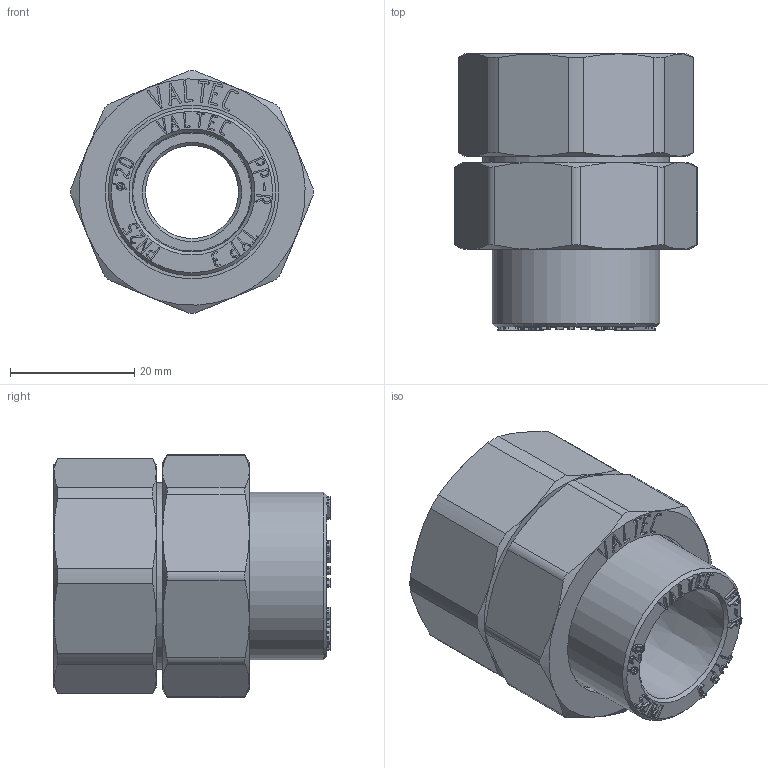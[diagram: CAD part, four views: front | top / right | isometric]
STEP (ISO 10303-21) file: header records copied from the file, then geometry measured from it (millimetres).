
FILE_DESCRIPTION(('STEP AP203'), '1');
FILE_NAME('VTp.762.0.02006', '2026-07-20T08:06:39', ('ledenevaEA'), (''), 'C3D Converter', 'C3D Toolkit', '');
FILE_SCHEMA(('CONFIG_CONTROL_DESIGN'));
Length unit declared in the file: millimetre
Products named in the file (1): ВР.302634.110.000 СБ
Bounding box: 39.18 x 44.5 x 39.18 mm (x, y, z)
Volume: 21934.5 mm3; surface area: 10675.3 mm2
Topology: 1 solids, 1 shells, 717 faces, 1985 edges, 1315 vertices
Faces by surface type: extrusion 389, plane 279, cone 27, cylinder 22
Full cylindrical faces by diameter (mm): 15 x1, 18.8 x1, 27 x1, 28 x1, 30 x1, 30.292 x1
Entity records: 24779 total; most frequent: CARTESIAN_POINT 8203, ORIENTED_EDGE 3920, DIRECTION 2207, EDGE_CURVE 1960, VECTOR 1457, VERTEX_POINT 1309, B_SPLINE_CURVE_WITH_KNOTS 1229, LINE 1068
